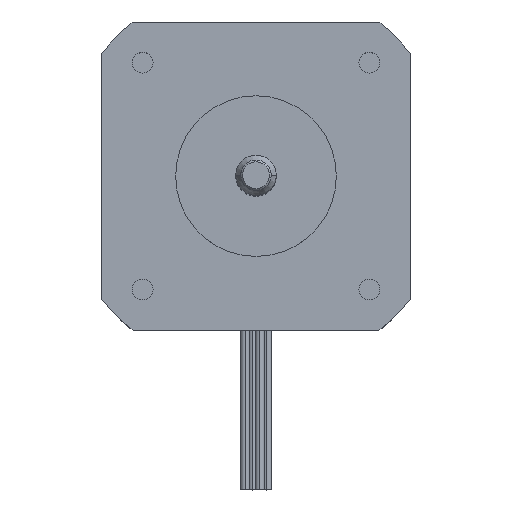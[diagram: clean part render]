
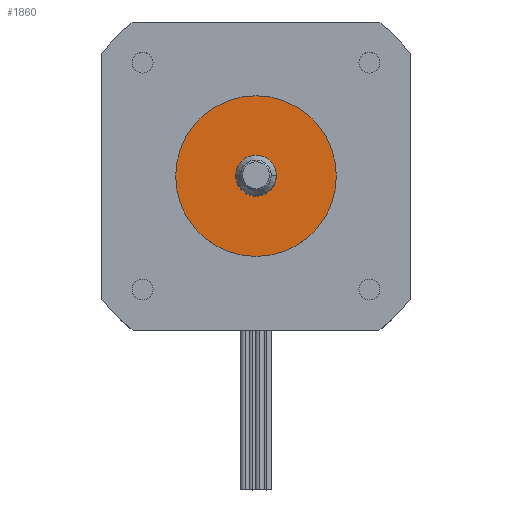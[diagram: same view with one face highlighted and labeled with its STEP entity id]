
A CAD part, top view. The second image highlights one B-rep face of the part: STEP entity #1860.
In plain terms, the highlighted planar face has unit normal (0, 0, 1).
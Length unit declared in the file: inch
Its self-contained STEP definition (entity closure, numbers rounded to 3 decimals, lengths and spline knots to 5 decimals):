
#21 = ORIENTED_EDGE ( 'NONE', *, *, #52, .T. ) ;
#52 = EDGE_CURVE ( 'NONE', #1989, #347, #146, .T. ) ;
#117 = PLANE ( 'NONE',  #2227 ) ;
#132 = CIRCLE ( 'NONE', #1163, 0.109 ) ;
#146 = CIRCLE ( 'NONE', #2203, 0.433 ) ;
#180 = DIRECTION ( 'NONE',  ( 1., 0., 0. ) ) ;
#290 = CARTESIAN_POINT ( 'NONE',  ( -0.109, 0., 0.09 ) ) ;
#324 = EDGE_CURVE ( 'NONE', #455, #1865, #2129, .T. ) ;
#347 = VERTEX_POINT ( 'NONE', #1856 ) ;
#372 = DIRECTION ( 'NONE',  ( 0., 0., 1. ) ) ;
#454 = DIRECTION ( 'NONE',  ( 1., 0., 0. ) ) ;
#455 = VERTEX_POINT ( 'NONE', #1879 ) ;
#534 = DIRECTION ( 'NONE',  ( 0., 0., 1. ) ) ;
#766 = CIRCLE ( 'NONE', #1321, 0.433 ) ;
#873 = CARTESIAN_POINT ( 'NONE',  ( 0., 0., 0.09 ) ) ;
#903 = DIRECTION ( 'NONE',  ( 1., 0., 0. ) ) ;
#1055 = AXIS2_PLACEMENT_3D ( 'NONE', #1088, #372, #180 ) ;
#1069 = DIRECTION ( 'NONE',  ( 0., 0., 1. ) ) ;
#1088 = CARTESIAN_POINT ( 'NONE',  ( 0., 0., 0.09 ) ) ;
#1104 = DIRECTION ( 'NONE',  ( 1., 0., 0. ) ) ;
#1120 = CARTESIAN_POINT ( 'NONE',  ( 0., 0., 0.09 ) ) ;
#1124 = ORIENTED_EDGE ( 'NONE', *, *, #2104, .T. ) ;
#1159 = EDGE_LOOP ( 'NONE', ( #1614, #1495 ) ) ;
#1163 = AXIS2_PLACEMENT_3D ( 'NONE', #873, #1069, #1249 ) ;
#1229 = FACE_OUTER_BOUND ( 'NONE', #2248, .T. ) ;
#1249 = DIRECTION ( 'NONE',  ( 1., 0., 0. ) ) ;
#1321 = AXIS2_PLACEMENT_3D ( 'NONE', #1452, #2007, #903 ) ;
#1329 = CARTESIAN_POINT ( 'NONE',  ( 0.433, 0., 0.09 ) ) ;
#1452 = CARTESIAN_POINT ( 'NONE',  ( 0., 0., 0.09 ) ) ;
#1495 = ORIENTED_EDGE ( 'NONE', *, *, #2352, .F. ) ;
#1567 = FACE_BOUND ( 'NONE', #1159, .T. ) ;
#1614 = ORIENTED_EDGE ( 'NONE', *, *, #324, .F. ) ;
#1856 = CARTESIAN_POINT ( 'NONE',  ( -0.433, 0., 0.09 ) ) ;
#1860 = ADVANCED_FACE ( 'NONE', ( #1229, #1567 ), #117, .T. ) ;
#1865 = VERTEX_POINT ( 'NONE', #290 ) ;
#1879 = CARTESIAN_POINT ( 'NONE',  ( 0.109, 0., 0.09 ) ) ;
#1918 = CARTESIAN_POINT ( 'NONE',  ( 0., 0., 0.09 ) ) ;
#1989 = VERTEX_POINT ( 'NONE', #1329 ) ;
#2007 = DIRECTION ( 'NONE',  ( 0., 0., 1. ) ) ;
#2104 = EDGE_CURVE ( 'NONE', #347, #1989, #766, .T. ) ;
#2129 = CIRCLE ( 'NONE', #1055, 0.109 ) ;
#2130 = DIRECTION ( 'NONE',  ( 0., 0., 1. ) ) ;
#2203 = AXIS2_PLACEMENT_3D ( 'NONE', #1120, #534, #1104 ) ;
#2227 = AXIS2_PLACEMENT_3D ( 'NONE', #1918, #2130, #454 ) ;
#2248 = EDGE_LOOP ( 'NONE', ( #1124, #21 ) ) ;
#2352 = EDGE_CURVE ( 'NONE', #1865, #455, #132, .T. ) ;
